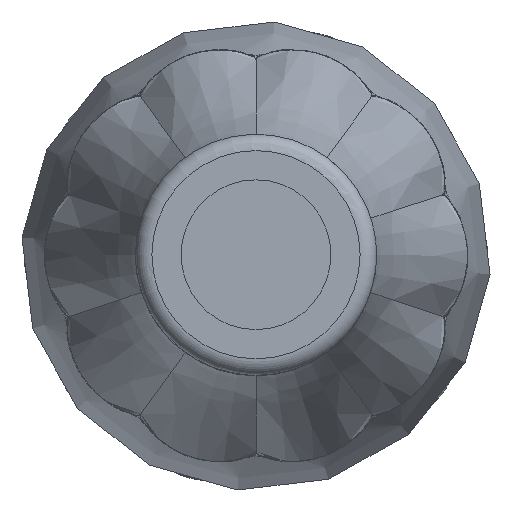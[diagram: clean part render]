
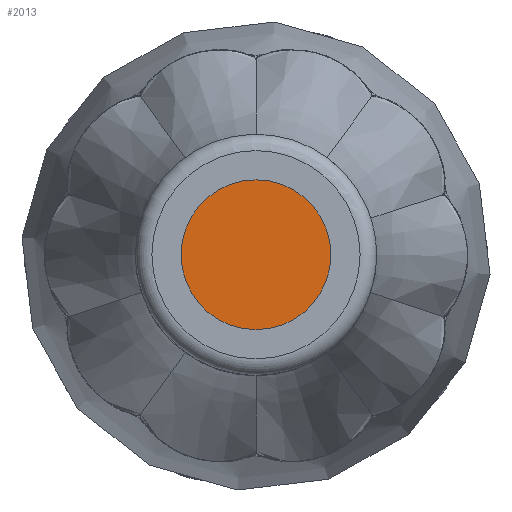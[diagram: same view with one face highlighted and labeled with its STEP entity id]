
A CAD part, top view. The second image highlights one B-rep face of the part: STEP entity #2013.
In plain terms, the highlighted planar face has unit normal (0, 0, 1).
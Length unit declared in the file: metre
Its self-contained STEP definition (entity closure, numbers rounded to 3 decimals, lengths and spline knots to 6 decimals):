
#338=PLANE('',#2179);
#351=ORIENTED_EDGE('',*,*,#1022,.F.);
#1022=EDGE_CURVE('',#1623,#1623,#1358,.T.);
#1358=CIRCLE('',#2178,0.012144);
#1475=EDGE_LOOP('',(#351));
#1623=VERTEX_POINT('',#3304);
#1836=FACE_BOUND('',#1475,.T.);
#2013=ADVANCED_FACE('',(#1836),#338,.T.);
#2178=AXIS2_PLACEMENT_3D('',#3303,#2351,#2352);
#2179=AXIS2_PLACEMENT_3D('',#3305,#2353,#2354);
#2351=DIRECTION('',(0.,0.,-1.));
#2352=DIRECTION('',(-1.,0.,0.));
#2353=DIRECTION('',(0.,0.,1.));
#2354=DIRECTION('',(1.,0.,0.));
#3303=CARTESIAN_POINT('',(0.,0.,0.148));
#3304=CARTESIAN_POINT('',(-0.012144,0.,0.148));
#3305=CARTESIAN_POINT('',(0.,0.,0.148));
